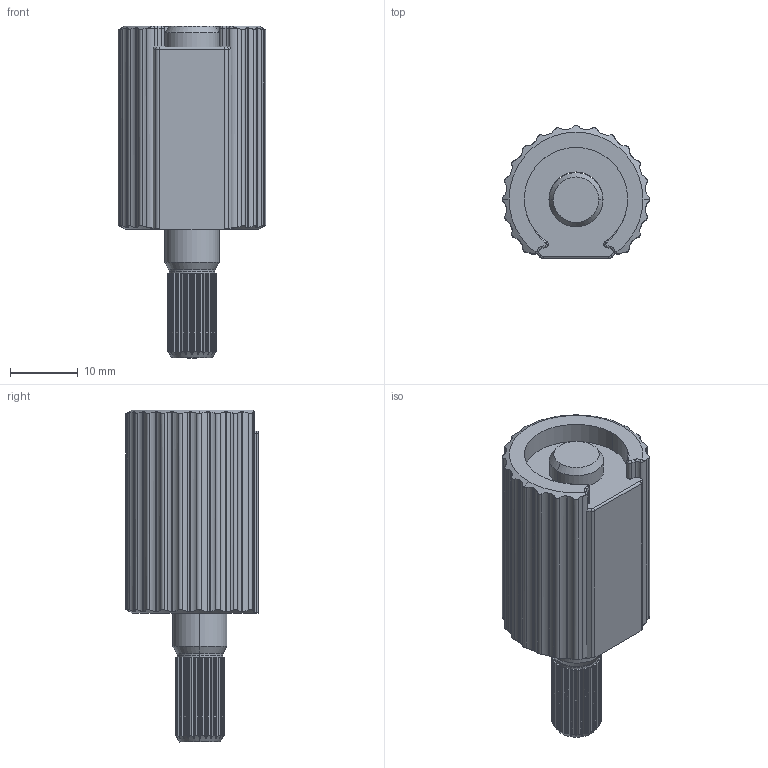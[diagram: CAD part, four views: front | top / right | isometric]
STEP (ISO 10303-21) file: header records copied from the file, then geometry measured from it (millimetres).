
FILE_DESCRIPTION (( 'STEP AP214' ), '1' );
FILE_NAME ('Reell TI-360-X.XX-01.STEP', '2019-10-16T15:47:06', ( '' ), ( '' ), 'SwSTEP 2.0', 'SolidWorks 2017', '' );
FILE_SCHEMA (( 'AUTOMOTIVE_DESIGN' ));
Length unit declared in the file: millimetre
Products named in the file (2): Reell TI-360-X.XX-01; Reell TI-360-X.XX-01-1
Assembly tree (1 placements, depth 2):
  Reell TI-360-X.XX-01
    Reell TI-360-X.XX-01-1
Bounding box: 21.75 x 19.62 x 49 mm (x, y, z)
Volume: 10342.5 mm3; surface area: 4087.8 mm2
Topology: 1 solids, 1 shells, 446 faces, 1204 edges, 760 vertices
Faces by surface type: cylinder 220, torus 128, plane 84, cone 14
Entity records: 15722 total; most frequent: CARTESIAN_POINT 4793, ORIENTED_EDGE 2408, DIRECTION 2222, EDGE_CURVE 1204, AXIS2_PLACEMENT_3D 937, VERTEX_POINT 760, CIRCLE 487, EDGE_LOOP 448
